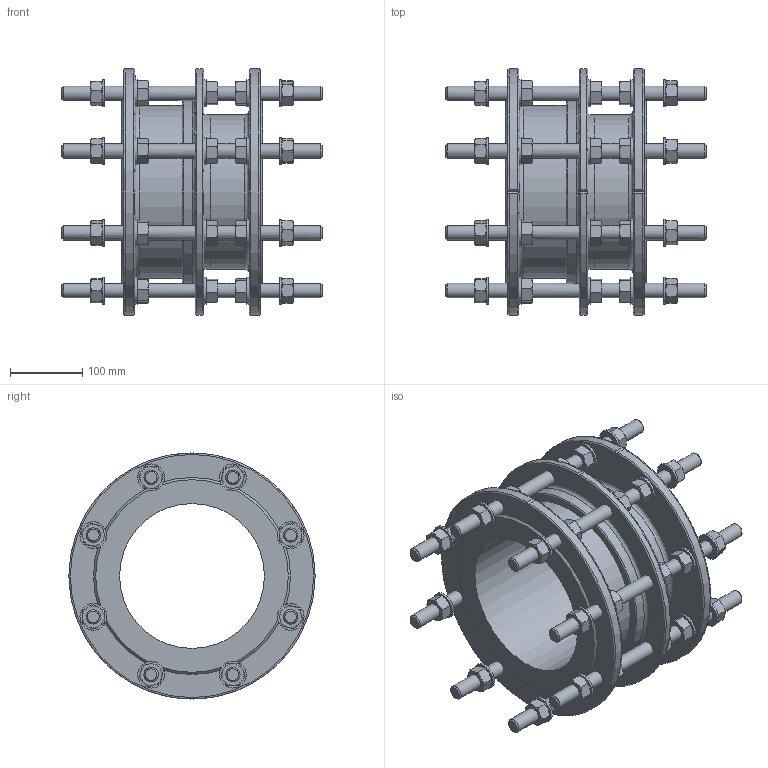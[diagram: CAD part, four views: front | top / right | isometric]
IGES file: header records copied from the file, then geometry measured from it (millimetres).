
Start section: SolidWorks IGES file using analytic representation for surfaces
Global section: file name: \\avksan2\techshare\PBM outline export from Enovia\O_265_911_DN200_0XXXXX01_L=195_REV01.igs; native system: SolidWorks 2022; preprocessor: SolidWorks 2022; author: pbm; date: 241212.084643; units: millimetre
Bounding box: 360 x 340 x 339.96 mm (x, y, z)
Surface area: 791834.1 mm2 (no closed solid volume)
Topology: 0 solids, 0 shells, 1028 faces, 4390 edges, 4274 vertices
Faces by surface type: revolution 616, bspline 412
